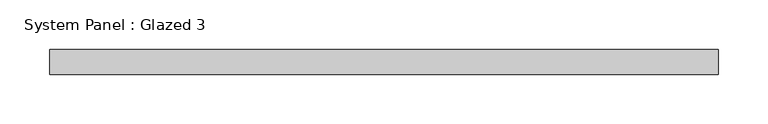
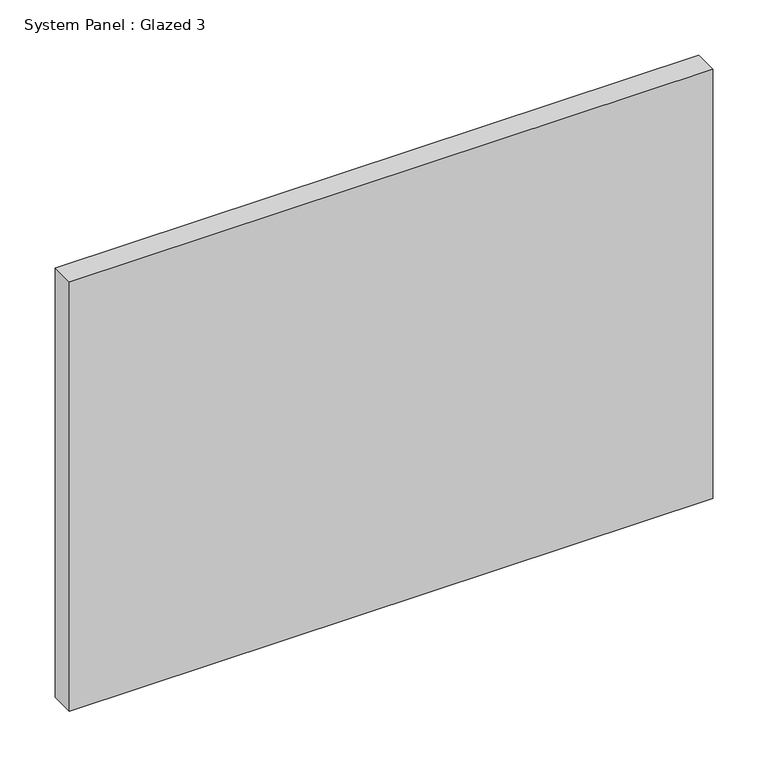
"""IFC4 building model written with IfcOpenShell, lengths in millimetres: plate geometry, System Panel : Glazed 3."""

import ifcopenshell
import ifcopenshell.guid

model = None  # the IFC model being written
_history = None  # IfcOwnerHistory: only IFC2X3 demands one
_inside = {}  # id of a spatial element -> (the spatial element, [elements in it])
_under = {}  # id of a project, library or spatial element -> (it, [spatial elements below it])
_declared = {}  # id of a project -> (the project, [libraries it declares])
_typed = {}  # id of a type object -> (the type object, [elements of that type])
_made_of = {}  # id of a material, layer set ... -> (it, [elements and type objects made of it])


def new_model(schema):
    """Start an empty IFC model of exactly this schema.

    Asked for "IFC4X3", IfcOpenShell would pick the latest addendum, in which some entities
    have other attributes; the version numbers below select the first issue.
    IFC2X3 requires an IfcOwnerHistory on every rooted entity: one is made here for all.
    """
    global model, _history
    if schema == "IFC4X3":
        model = ifcopenshell.file(schema_version=(4, 3, 0, 0))
    else:
        model = ifcopenshell.file(schema=schema)
    _inside.clear()
    _under.clear()
    _declared.clear()
    _typed.clear()
    _made_of.clear()
    _history = None
    if model.schema == "IFC2X3":
        org = make("IfcOrganization", Name="unknown")
        user = make(
            "IfcPersonAndOrganization",
            ThePerson=make("IfcPerson", FamilyName="unknown"),
            TheOrganization=org,
        )
        app = make(
            "IfcApplication",
            ApplicationDeveloper=org,
            Version="unknown",
            ApplicationFullName="unknown",
            ApplicationIdentifier="unknown",
        )
        _history = make(
            "IfcOwnerHistory",
            OwningUser=user,
            OwningApplication=app,
            ChangeAction="ADDED",
            CreationDate=0,
        )
    return model


def make(cls, **values):
    """One entity of the class cls with the attributes given. An attribute that is None is left unset."""
    return model.create_entity(
        cls, **{name: value for name, value in values.items() if value is not None}
    )


def rooted(cls, **values):
    """An entity with a GlobalId (a new one), such as an element, a storey or a relation."""
    return make(cls, GlobalId=ifcopenshell.guid.new(), OwnerHistory=_history, **values)


def si_unit(unit_type, name, prefix=None):
    """IfcSIUnit, for example si_unit("LENGTHUNIT", "METRE", prefix="MILLI")."""
    return make("IfcSIUnit", UnitType=unit_type, Prefix=prefix, Name=name)


def assignment(units):
    """IfcUnitAssignment: the units of a project."""
    return None if units is None else make("IfcUnitAssignment", Units=units)


def point(xyz):
    """IfcCartesianPoint."""
    return None if xyz is None else make("IfcCartesianPoint", Coordinates=xyz)


def direction(xyz):
    """IfcDirection."""
    return None if xyz is None else make("IfcDirection", DirectionRatios=xyz)


def frame(location, z_axis=None, x_axis=None):
    """IfcAxis2Placement3D, a coordinate frame: its origin and axes. An axis left out is left unset."""
    return make(
        "IfcAxis2Placement3D",
        Location=point(location),
        Axis=direction(z_axis),
        RefDirection=direction(x_axis),
    )


def origin():
    """The frame at (0, 0, 0) with its axes left unset."""
    return frame((0.0, 0.0, 0.0))


def origin_with_axes():
    """The frame at (0, 0, 0) with the z axis (0, 0, 1) and the x axis (1, 0, 0) written out."""
    return frame((0.0, 0.0, 0.0), z_axis=(0.0, 0.0, 1.0), x_axis=(1.0, 0.0, 0.0))


def place(relative_to, where):
    """IfcLocalPlacement: puts the frame where relative to a parent placement (None: the world)."""
    return make(
        "IfcLocalPlacement", PlacementRelTo=relative_to, RelativePlacement=where
    )


def context(
    kind, dimensions, precision=None, world=None, true_north=None, identifier=None
):
    """IfcGeometricRepresentationContext, for example the 3D "Model" context."""
    return make(
        "IfcGeometricRepresentationContext",
        ContextIdentifier=identifier,
        ContextType=kind,
        CoordinateSpaceDimension=dimensions,
        Precision=precision,
        WorldCoordinateSystem=world,
        TrueNorth=true_north,
    )


def project(units=None, contexts=None):
    """IfcProject with its units and contexts."""
    return rooted(
        "IfcProject",
        Name="project",
        RepresentationContexts=contexts,
        UnitsInContext=assignment(units),
    )


def spatial(cls, under=None, at=None, **own):
    """A site, building, storey or space (cls), placed at a placement, below another one or the project."""
    s = rooted(cls, ObjectPlacement=at, **own)
    if under is not None:
        _under.setdefault(under.id(), (under, []))[1].append(s)
    return s


def polyline(points):
    """IfcPolyline through the points."""
    return make("IfcPolyline", Points=[point(p) for p in points])


def outline(outer, holes=None, kind="AREA"):
    """IfcArbitraryClosedProfileDef: a profile drawn as a closed curve; with holes, ...WithVoids."""
    if holes is None:
        return make("IfcArbitraryClosedProfileDef", ProfileType=kind, OuterCurve=outer)
    return make(
        "IfcArbitraryProfileDefWithVoids",
        ProfileType=kind,
        OuterCurve=outer,
        InnerCurves=holes,
    )


def extrude(swept, where, along, depth):
    """IfcExtrudedAreaSolid: the profile swept, set in the frame where, extruded along a direction by depth."""
    return make(
        "IfcExtrudedAreaSolid",
        SweptArea=swept,
        Position=where,
        ExtrudedDirection=direction(along),
        Depth=depth,
    )


def shape(context_of_items, identifier, shape_type, items):
    """IfcShapeRepresentation: the items that make up one representation, for example the "Body"."""
    return make(
        "IfcShapeRepresentation",
        ContextOfItems=context_of_items,
        RepresentationIdentifier=identifier,
        RepresentationType=shape_type,
        Items=items,
    )


def source(mapping_origin, context_of_items, identifier, shape_type, items):
    """IfcRepresentationMap: a shape defined once, which mapped items show again and again."""
    return make(
        "IfcRepresentationMap",
        MappingOrigin=mapping_origin,
        MappedRepresentation=shape(context_of_items, identifier, shape_type, items),
    )


def transform(
    local_origin,
    x_axis=None,
    y_axis=None,
    z_axis=None,
    scale=None,
    scale2=None,
    scale3=None,
    uniform=True,
):
    """IfcCartesianTransformationOperator3D, or its non-uniform kind. x_axis, y_axis, z_axis: its Axis1, 2, 3."""
    if uniform:
        return make(
            "IfcCartesianTransformationOperator3D",
            Axis1=direction(x_axis),
            Axis2=direction(y_axis),
            LocalOrigin=point(local_origin),
            Scale=scale,
            Axis3=direction(z_axis),
        )
    return make(
        "IfcCartesianTransformationOperator3DnonUniform",
        Axis1=direction(x_axis),
        Axis2=direction(y_axis),
        LocalOrigin=point(local_origin),
        Scale=scale,
        Axis3=direction(z_axis),
        Scale2=scale2,
        Scale3=scale3,
    )


def mapped(mapping_source, mapping_target):
    """IfcMappedItem: shows the shape of a source again, moved by a transform."""
    return make(
        "IfcMappedItem", MappingSource=mapping_source, MappingTarget=mapping_target
    )


def made_of(thing, what):
    """Note that an element or type object is made of a material, layer set ...; save() writes the relation."""
    if what is not None:
        _made_of.setdefault(what.id(), (what, []))[1].append(thing)
    return thing


def element(
    cls,
    number,
    at=None,
    inside=None,
    cuts=None,
    type_object=None,
    material=None,
    context=None,
    identifier="Body",
    shape_type=None,
    held_by="IfcProductDefinitionShape",
    body=None,
    shapes=None,
    **own,
):
    """One element of the class cls, such as IfcWall. Its Tag is "e" and its number.

    at: its placement. inside: the storey or other place that contains it. cuts: it is an
    opening in that element (IfcRelVoidsElement). A single representation is given by context,
    identifier, shape_type and body (its items); several are given by shapes. held_by: the class
    of the entity that holds the representations. save() writes the other relations.
    """
    e = rooted(cls, Tag="e%d" % number, ObjectPlacement=at, **own)
    if body is not None:
        shapes = [shape(context, identifier, shape_type, body)]
    if shapes is not None:
        e.Representation = make(held_by, Representations=shapes)
    if inside is not None:
        _inside.setdefault(inside.id(), (inside, []))[1].append(e)
    if cuts is not None:
        rooted(
            "IfcRelVoidsElement", RelatingBuildingElement=cuts, RelatedOpeningElement=e
        )
    if type_object is not None:
        _typed.setdefault(type_object.id(), (type_object, []))[1].append(e)
    return made_of(e, material)


def aggregate(whole, parts):
    """IfcRelAggregates: a whole, such as a stair, and the parts it consists of."""
    return rooted("IfcRelAggregates", RelatingObject=whole, RelatedObjects=parts)


def save(model, path):
    """Write the relations noted so far, then the file.

    IfcRelAggregates (storeys below a building ...), IfcRelContainedInSpatialStructure (elements
    in a storey), IfcRelDefinesByType, IfcRelAssociatesMaterial and IfcRelDeclares: one each for
    every whole, place, type object, material and project.
    """
    for whole, parts in _under.values():
        aggregate(whole, parts)
    for where, things in _inside.values():
        rooted(
            "IfcRelContainedInSpatialStructure",
            RelatedElements=things,
            RelatingStructure=where,
        )
    for kind, things in _typed.values():
        rooted("IfcRelDefinesByType", RelatedObjects=things, RelatingType=kind)
    for what, things in _made_of.values():
        rooted("IfcRelAssociatesMaterial", RelatedObjects=things, RelatingMaterial=what)
    for by, libraries in _declared.values():
        rooted("IfcRelDeclares", RelatingContext=by, RelatedDefinitions=libraries)
    model.write(path)


def system_panel_glazed_3_e0a3ef8b(model_context):
    return source(origin(), model_context, "Body", "SweptSolid", [
        extrude(outline(polyline([(335.8333333, -12.5), (-335.8333333, -12.5), (-335.8333333, 12.5), (335.8333333, 12.5), (335.8333333, -12.5)])), origin_with_axes(), (0.0, 0.0, 1.0), 474.0),
    ])


if __name__ == "__main__":
    model = new_model("IFC4")
    model_context = context("Model", 3, world=origin())
    ifc_project = project(units=[si_unit("LENGTHUNIT", "METRE", prefix="MILLI")], contexts=[model_context])
    site = spatial("IfcSite", under=ifc_project)
    building = spatial("IfcBuilding", under=site)
    placement = place(None, origin())
    system_panel_glazed_3_shape = system_panel_glazed_3_e0a3ef8b(model_context)
    element("IfcPlate", 1, ObjectType="System Panel : Glazed 3", at=placement, inside=building, context=model_context, shape_type="MappedRepresentation", body=[
        mapped(system_panel_glazed_3_shape, transform((0.0, 0.0, 0.0), x_axis=(1.0, 0.0, 0.0), y_axis=(0.0, 1.0, 0.0), z_axis=(0.0, 0.0, 1.0))),
    ])
    save(model, "model.ifc")
